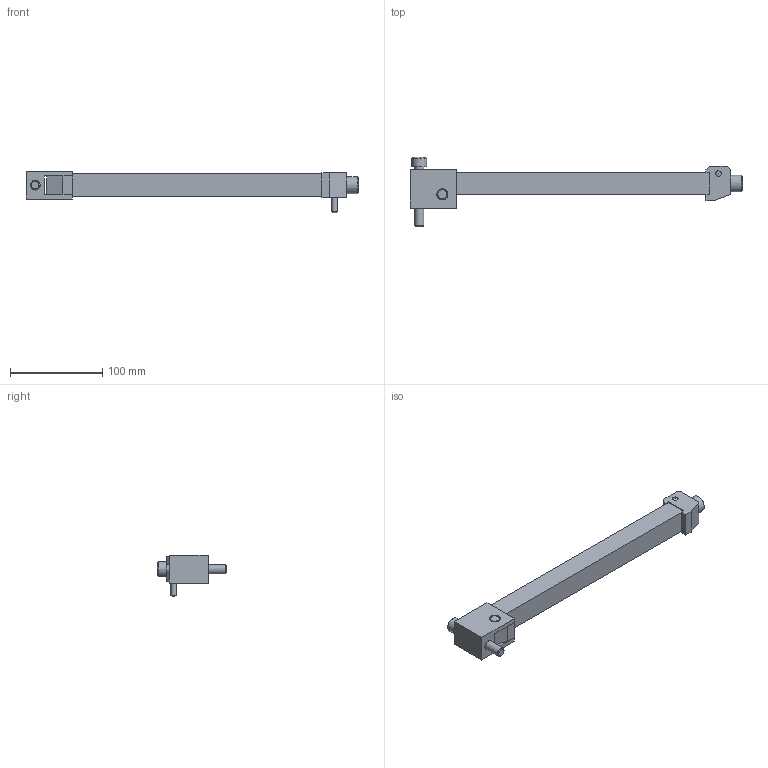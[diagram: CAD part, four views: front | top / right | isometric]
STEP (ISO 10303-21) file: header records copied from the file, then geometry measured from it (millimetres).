
FILE_DESCRIPTION( ( 'STEP AP214' ), '1' );
FILE_NAME( 'p:/temp/worker_2/temp/exporttempdir_3904_38_gWau0/format_0/ZH904.stp', '2021-02-11T19:25:20', ( 'License CC BY-ND 4.0' ), ( 'CADENAS' ), ' ', 'PARTsolutions', ' ' );
FILE_SCHEMA( ( 'AUTOMOTIVE_DESIGN { 1 0 10303 214 1 1 1 1 }' ) );
Length unit declared in the file: millimetre
Products named in the file (9): ZH904; _ZH90/4_head; _ZH90/4_screw1; _ZH90/4_hand; _ZH90/4_screw2; _ZH90/4_he; _ZH90/4_screw3; _ZH90/4_stift1; _ZH90/4_stift2
Assembly tree (8 placements, depth 2):
  ZH904
    _ZH90/4_head
    _ZH90/4_screw1
    _ZH90/4_hand
    _ZH90/4_screw2
    _ZH90/4_he
    _ZH90/4_screw3
    _ZH90/4_stift1
    _ZH90/4_stift2
Bounding box: 359 x 75 x 44.7 mm (x, y, z)
Volume: 241506.9 mm3; surface area: 61377.6 mm2
Topology: 8 solids, 8 shells, 95 faces, 218 edges, 142 vertices
Faces by surface type: plane 67, cylinder 15, cone 11, sphere 2
Full cylindrical faces by diameter (mm): 4.134 x1, 5 x1, 6 x2, 10 x1, 10.106 x1, 10.5 x1, 12 x5, 13 x1, 16 x1, 18 x1
Entity records: 3438 total; most frequent: CARTESIAN_POINT 474, DIRECTION 428, ORIENTED_EDGE 364, EDGE_CURVE 182, AXIS2_PLACEMENT_3D 143, LINE 142, VECTOR 142, EDGE_LOOP 140
